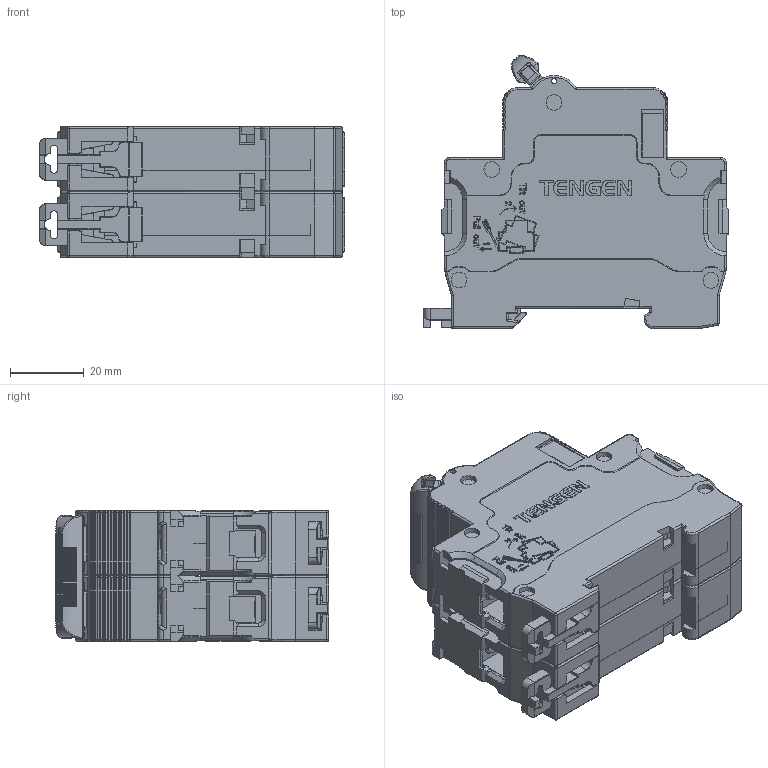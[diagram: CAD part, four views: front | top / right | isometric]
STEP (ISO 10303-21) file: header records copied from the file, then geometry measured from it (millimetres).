
FILE_DESCRIPTION((''),'2;1');
FILE_NAME('2P','2021-03-25T',('chenzhiqiang'),(''),'PRO/ENGINEER BY PARAMETRIC TECHNOLOGY CORPORATION, 2017170','PRO/ENGINEER BY PARAMETRIC TECHNOLOGY CORPORATION, 2017170','');
FILE_SCHEMA(('CONFIG_CONTROL_DESIGN'));
Products named in the file (1): 2P
Bounding box: 83.15 x 74.37 x 35.6 mm (x, y, z)
Volume: 135162.8 mm3; surface area: 44513.7 mm2
Topology: 2 solids, 5 shells, 6226 faces, 16834 edges, 10741 vertices
Faces by surface type: plane 4194, cylinder 1109, torus 346, bspline 302, extrusion 133, cone 120, sphere 22
Entity records: 213025 total; most frequent: CARTESIAN_POINT 59033, ORIENTED_EDGE 33668, DIRECTION 29439, EDGE_CURVE 16834, VECTOR 12799, LINE 12666, VERTEX_POINT 10741, AXIS2_PLACEMENT_3D 8320
